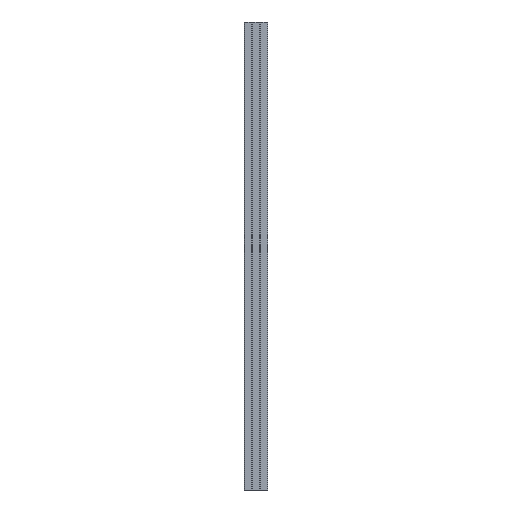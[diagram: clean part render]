
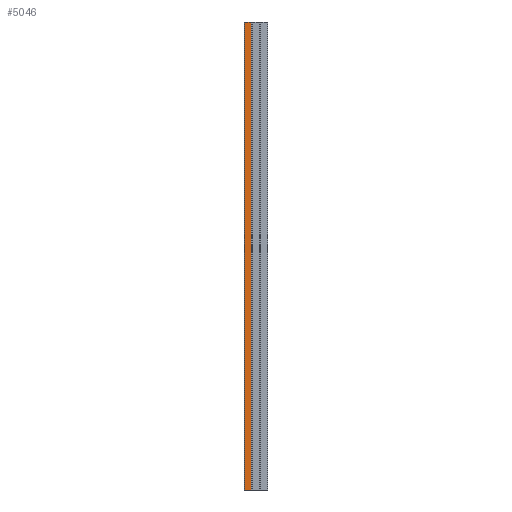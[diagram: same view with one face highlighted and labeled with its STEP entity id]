
A CAD part, front view. The second image highlights one B-rep face of the part: STEP entity #5046.
In plain terms, the highlighted planar face has unit normal (0, -1, 0).
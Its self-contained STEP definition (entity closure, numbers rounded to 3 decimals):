
#95 = CARTESIAN_POINT ( 'NONE',  ( -30.55, -20., -1500. ) ) ;
#97 = DIRECTION ( 'NONE',  ( 1., 0., 0. ) ) ;
#662 = FACE_OUTER_BOUND ( 'NONE', #1025, .T. ) ;
#1025 = EDGE_LOOP ( 'NONE', ( #6365, #6272, #6364, #6363 ) ) ;
#1259 = DIRECTION ( 'NONE',  ( 0., 1., 0. ) ) ;
#1260 = DIRECTION ( 'NONE',  ( 0., 0., 1. ) ) ;
#1675 = LINE ( 'NONE', #2229, #1704 ) ;
#1704 = VECTOR ( 'NONE', #2200, 1000. ) ;
#2200 = DIRECTION ( 'NONE',  ( 1., 0., 0. ) ) ;
#2229 = CARTESIAN_POINT ( 'NONE',  ( -30.55, -20., 1500. ) ) ;
#3088 = CARTESIAN_POINT ( 'NONE',  ( -30.55, -20., -1500. ) ) ;
#3236 = CARTESIAN_POINT ( 'NONE',  ( -30.55, -20., 1500. ) ) ;
#3367 = CARTESIAN_POINT ( 'NONE',  ( -73.5, -20., -1500. ) ) ;
#3552 = LINE ( 'NONE', #95, #3555 ) ;
#3555 = VECTOR ( 'NONE', #97, 1000. ) ;
#3795 = LINE ( 'NONE', #5362, #3798 ) ;
#3798 = VECTOR ( 'NONE', #5363, 1000. ) ;
#3799 = LINE ( 'NONE', #5355, #3801 ) ;
#3801 = VECTOR ( 'NONE', #5356, 1000. ) ;
#4013 = AXIS2_PLACEMENT_3D ( 'NONE', #8086, #1259, #1260 ) ;
#4487 = EDGE_CURVE ( 'NONE', #7737, #7545, #1675, .T. ) ;
#4781 = EDGE_CURVE ( 'NONE', #7676, #7104, #3552, .T. ) ;
#4917 = EDGE_CURVE ( 'NONE', #7545, #7104, #3795, .T. ) ;
#4919 = EDGE_CURVE ( 'NONE', #7737, #7676, #3799, .T. ) ;
#5046 = ADVANCED_FACE ( 'NONE', ( #662 ), #8093, .F. ) ;
#5355 = CARTESIAN_POINT ( 'NONE',  ( -73.5, -20., 1500. ) ) ;
#5356 = DIRECTION ( 'NONE',  ( 0., 0., -1. ) ) ;
#5362 = CARTESIAN_POINT ( 'NONE',  ( -30.55, -20., 1500. ) ) ;
#5363 = DIRECTION ( 'NONE',  ( 0., 0., -1. ) ) ;
#5717 = CARTESIAN_POINT ( 'NONE',  ( -73.5, -20., 1500. ) ) ;
#6272 = ORIENTED_EDGE ( 'NONE', *, *, #4917, .F. ) ;
#6363 = ORIENTED_EDGE ( 'NONE', *, *, #4919, .T. ) ;
#6364 = ORIENTED_EDGE ( 'NONE', *, *, #4487, .F. ) ;
#6365 = ORIENTED_EDGE ( 'NONE', *, *, #4781, .T. ) ;
#7104 = VERTEX_POINT ( 'NONE', #3088 ) ;
#7545 = VERTEX_POINT ( 'NONE', #3236 ) ;
#7676 = VERTEX_POINT ( 'NONE', #3367 ) ;
#7737 = VERTEX_POINT ( 'NONE', #5717 ) ;
#8086 = CARTESIAN_POINT ( 'NONE',  ( -30.55, -20., 1500. ) ) ;
#8093 = PLANE ( 'NONE',  #4013 ) ;
